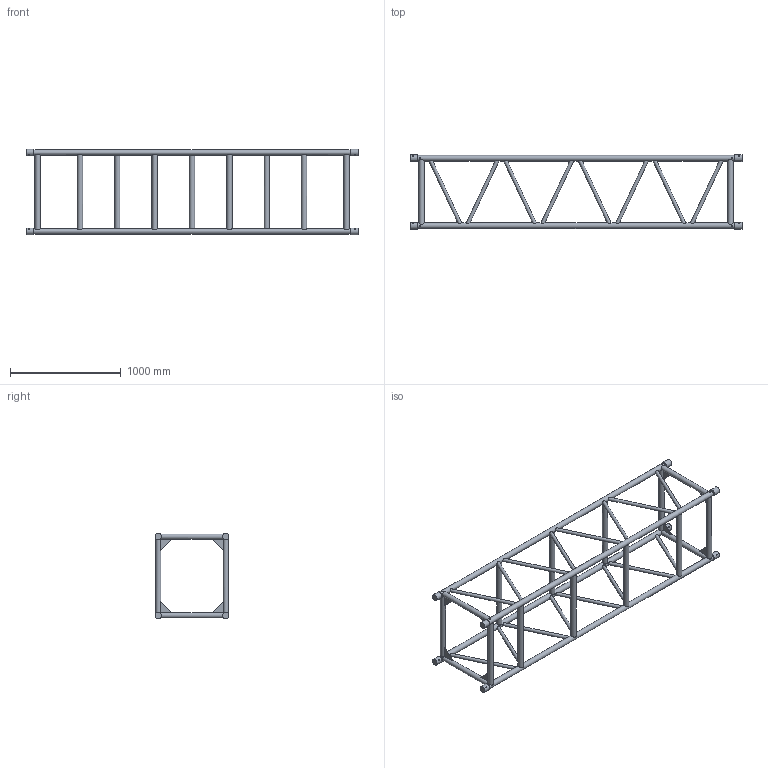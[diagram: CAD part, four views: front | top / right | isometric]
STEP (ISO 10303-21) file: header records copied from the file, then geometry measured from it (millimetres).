
FILE_DESCRIPTION(/* description */ (''),/* implementation_level */ '2;1');
FILE_NAME(/* name */ 'C:\Users\adrian.toca\Desktop\111110182.stp',/* time_stamp */ '2016-12-07T16:50:59+02:00',/* author */ ('adrian.toca'),/* organization */ (''),/* preprocessor_version */ 'ST-DEVELOPER v15.6',/* originating_system */ 'Autodesk Inventor 2015',/* authorisation */ '');
FILE_SCHEMA (('AUTOMOTIVE_DESIGN { 1 0 10303 214 3 1 1 }'));
Length unit declared in the file: millimetre
Products named in the file (1): 260031317
Bounding box: 3000 x 668.58 x 770.58 mm (x, y, z)
Volume: 48749452.9 mm3; surface area: 4367779.8 mm2
Topology: 1 solids, 1 shells, 255 faces, 699 edges, 440 vertices
Faces by surface type: plane 180, cylinder 67, cone 8
Full cylindrical faces by diameter (mm): 10 x8, 30 x16, 48.3 x11, 48.302 x4, 50 x4, 58.8 x8
Entity records: 10771 total; most frequent: CARTESIAN_POINT 4608, DIRECTION 1148, ORIENTED_EDGE 1128, EDGE_CURVE 556, AXIS2_PLACEMENT_3D 492, EDGE_LOOP 408, VERTEX_POINT 384, STYLED_ITEM 256
